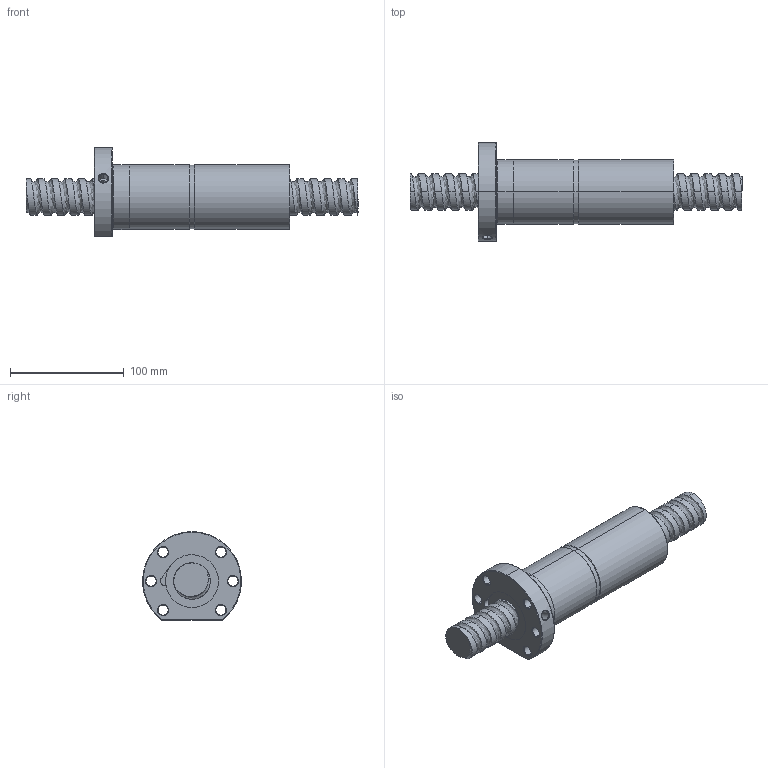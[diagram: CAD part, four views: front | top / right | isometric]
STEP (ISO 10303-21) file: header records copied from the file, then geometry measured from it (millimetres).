
FILE_DESCRIPTION (( 'STEP AP214' ), '1' );
FILE_NAME ('FDDC03212T5-F-B.STEP', '2010-07-06T05:19:21', ( 'XPAUTO' ), ( 'XPAUTO' ), 'SwSTEP 2.0', 'SolidWorks 2007', '' );
FILE_SCHEMA (( 'AUTOMOTIVE_DESIGN' ));
Length unit declared in the file: millimetre
Products named in the file (3): FDDC03212T5-F-B; FDDC03212T5-F-B.sldasm-Part-1_預設; FDDC03212T5-F-B.sldasm-Part-2_預設
Assembly tree (2 placements, depth 2):
  FDDC03212T5-F-B
    FDDC03212T5-F-B.sldasm-Part-2_預設
    FDDC03212T5-F-B.sldasm-Part-1_預設
Bounding box: 292 x 86.73 x 78 mm (x, y, z)
Volume: 546430.6 mm3; surface area: 96822.7 mm2
Topology: 2 solids, 2 shells, 147 faces, 370 edges, 232 vertices
Faces by surface type: cylinder 90, cone 24, plane 19, torus 9, bspline 5
Entity records: 31411 total; most frequent: CARTESIAN_POINT 27936, ORIENTED_EDGE 740, DIRECTION 662, EDGE_CURVE 370, AXIS2_PLACEMENT_3D 268, VERTEX_POINT 232, EDGE_LOOP 168, ADVANCED_FACE 147
